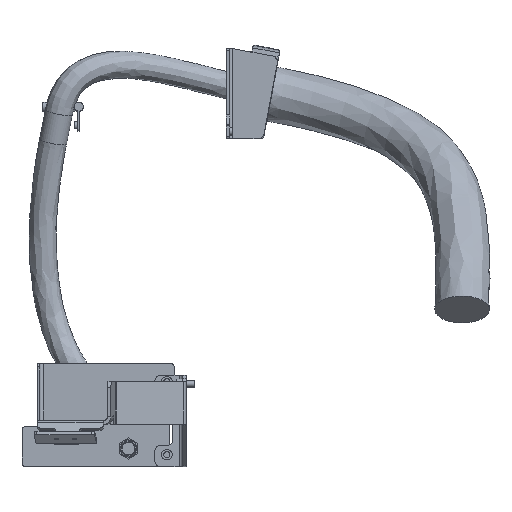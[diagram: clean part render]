
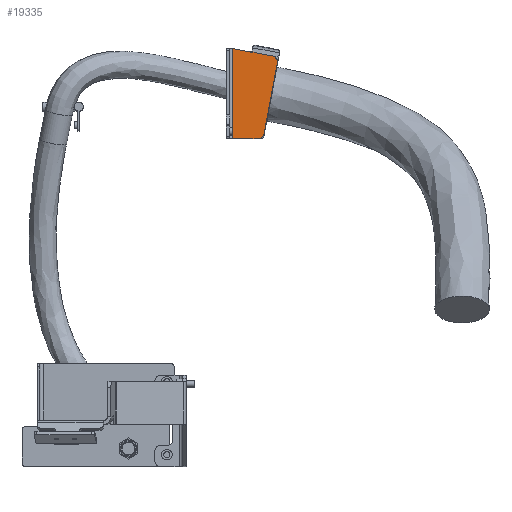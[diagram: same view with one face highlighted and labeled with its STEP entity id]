
A CAD part, left-side view. The second image highlights one B-rep face of the part: STEP entity #19335.
In plain terms, the highlighted planar face has unit normal (-1, 0, 0).
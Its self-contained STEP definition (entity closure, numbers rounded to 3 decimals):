
#97 = CARTESIAN_POINT ( 'NONE',  ( 949., -213.37, 2182.144 ) ) ;
#705 = LINE ( 'NONE', #14376, #14428 ) ;
#792 = EDGE_LOOP ( 'NONE', ( #17514, #17872, #11692, #17665, #17565, #2777 ) ) ;
#999 = VECTOR ( 'NONE', #13621, 1000. ) ;
#1381 = EDGE_CURVE ( 'NONE', #6269, #15143, #12509, .T. ) ;
#1787 = CARTESIAN_POINT ( 'NONE',  ( 949., -140., 2058. ) ) ;
#2658 = DIRECTION ( 'NONE',  ( 0., 1., 0. ) ) ;
#2735 = PLANE ( 'NONE',  #10308 ) ;
#2777 = ORIENTED_EDGE ( 'NONE', *, *, #1381, .F. ) ;
#3767 = CARTESIAN_POINT ( 'NONE',  ( 949., -140., 2058. ) ) ;
#4102 = FACE_OUTER_BOUND ( 'NONE', #792, .T. ) ;
#4986 = VERTEX_POINT ( 'NONE', #18148 ) ;
#6211 = LINE ( 'NONE', #7595, #999 ) ;
#6269 = VERTEX_POINT ( 'NONE', #1787 ) ;
#6284 = VECTOR ( 'NONE', #18839, 1000. ) ;
#6318 = CARTESIAN_POINT ( 'NONE',  ( 949., -181.91, 2058. ) ) ;
#6929 = VERTEX_POINT ( 'NONE', #97 ) ;
#7295 = DIRECTION ( 'NONE',  ( 0., -1., 0. ) ) ;
#7595 = CARTESIAN_POINT ( 'NONE',  ( 949., -215.035, 2191.074 ) ) ;
#8142 = VERTEX_POINT ( 'NONE', #13315 ) ;
#8301 = AXIS2_PLACEMENT_3D ( 'NONE', #8865, #13320, #17662 ) ;
#8865 = CARTESIAN_POINT ( 'NONE',  ( 949., -203.54, 2183.978 ) ) ;
#9663 = DIRECTION ( 'NONE',  ( 0., -0.983, -0.183 ) ) ;
#10181 = CARTESIAN_POINT ( 'NONE',  ( 949., -135., 2206. ) ) ;
#10206 = CARTESIAN_POINT ( 'NONE',  ( 949., -181.91, 2068. ) ) ;
#10308 = AXIS2_PLACEMENT_3D ( 'NONE', #10181, #19284, #16482 ) ;
#10354 = LINE ( 'NONE', #14792, #14918 ) ;
#10932 = AXIS2_PLACEMENT_3D ( 'NONE', #10206, #16210, #2658 ) ;
#11018 = CARTESIAN_POINT ( 'NONE',  ( 949., -140., 2206. ) ) ;
#11532 = CIRCLE ( 'NONE', #10932, 10. ) ;
#11692 = ORIENTED_EDGE ( 'NONE', *, *, #15167, .F. ) ;
#12509 = LINE ( 'NONE', #3767, #6284 ) ;
#13315 = CARTESIAN_POINT ( 'NONE',  ( 949., -191.741, 2066.167 ) ) ;
#13320 = DIRECTION ( 'NONE',  ( -1., 0., 0. ) ) ;
#13621 = DIRECTION ( 'NONE',  ( 0., 0.183, -0.983 ) ) ;
#14376 = CARTESIAN_POINT ( 'NONE',  ( 949., -135.168, 2206.901 ) ) ;
#14428 = VECTOR ( 'NONE', #9663, 1000. ) ;
#14595 = EDGE_CURVE ( 'NONE', #6269, #17260, #10354, .T. ) ;
#14792 = CARTESIAN_POINT ( 'NONE',  ( 949., -135., 2058. ) ) ;
#14918 = VECTOR ( 'NONE', #7295, 1000. ) ;
#15143 = VERTEX_POINT ( 'NONE', #11018 ) ;
#15167 = EDGE_CURVE ( 'NONE', #6929, #8142, #6211, .T. ) ;
#15639 = EDGE_CURVE ( 'NONE', #6929, #4986, #15860, .T. ) ;
#15860 = CIRCLE ( 'NONE', #8301, 10. ) ;
#16210 = DIRECTION ( 'NONE',  ( -1., 0., 0. ) ) ;
#16482 = DIRECTION ( 'NONE',  ( 0., 1., 0. ) ) ;
#17260 = VERTEX_POINT ( 'NONE', #6318 ) ;
#17514 = ORIENTED_EDGE ( 'NONE', *, *, #14595, .T. ) ;
#17565 = ORIENTED_EDGE ( 'NONE', *, *, #18721, .F. ) ;
#17662 = DIRECTION ( 'NONE',  ( 0., 1., 0. ) ) ;
#17665 = ORIENTED_EDGE ( 'NONE', *, *, #15639, .T. ) ;
#17872 = ORIENTED_EDGE ( 'NONE', *, *, #19238, .T. ) ;
#18148 = CARTESIAN_POINT ( 'NONE',  ( 949., -205.373, 2193.808 ) ) ;
#18721 = EDGE_CURVE ( 'NONE', #15143, #4986, #705, .T. ) ;
#18839 = DIRECTION ( 'NONE',  ( 0., 0., 1. ) ) ;
#19238 = EDGE_CURVE ( 'NONE', #17260, #8142, #11532, .T. ) ;
#19284 = DIRECTION ( 'NONE',  ( 1., 0., 0. ) ) ;
#19335 = ADVANCED_FACE ( 'NONE', ( #4102 ), #2735, .F. ) ;
